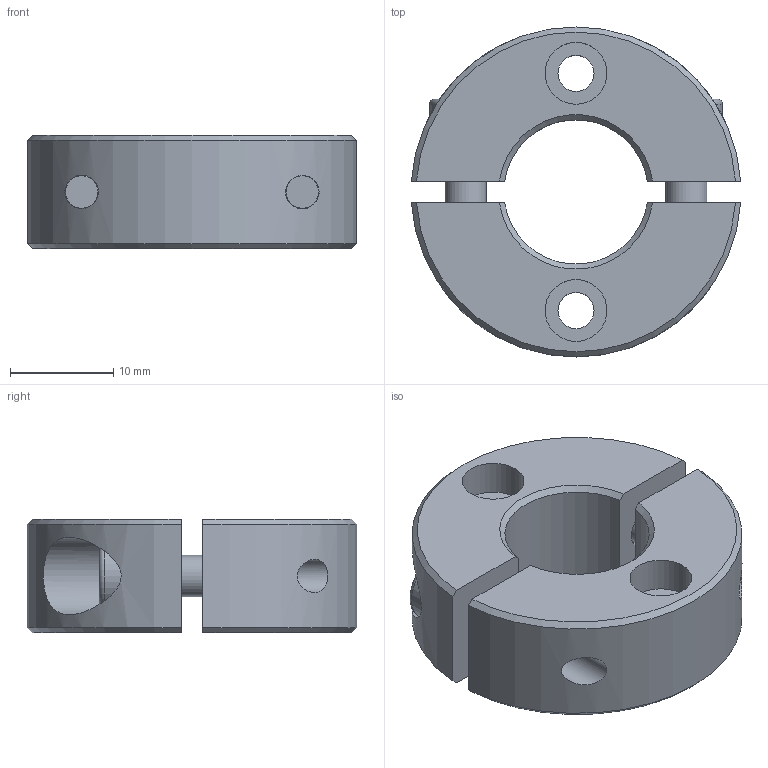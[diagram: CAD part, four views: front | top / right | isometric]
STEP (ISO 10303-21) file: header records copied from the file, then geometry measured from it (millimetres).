
FILE_DESCRIPTION( ( 'STEP AP203' ), '1' );
FILE_NAME( 'C:/Temp/Ganter_Step_05_03_2020/data/3_2/gn7072_2/Split Stainless Steel-Set collar GN 7072.2-32-B14-NI-B.stp', '2020-03-13T05:40:56', ( 'License CC BY-ND 4.0' ), ( 'CADENAS' ), ' ', 'PARTsolutions', ' ' );
FILE_SCHEMA( ( 'CONFIG_CONTROL_DESIGN' ) );
Length unit declared in the file: millimetre
Products named in the file (1): _Split Stainless Steel-Set collar GN 7072.2-32-B14-NI-B
Bounding box: 31.93 x 32 x 11 mm (x, y, z)
Volume: 5967.9 mm3; surface area: 4118.4 mm2
Topology: 1 solids, 1 shells, 62 faces, 143 edges, 97 vertices
Faces by surface type: plane 32, cylinder 18, cone 10, torus 2
Full cylindrical faces by diameter (mm): 3.242 x2, 3.5 x2, 4 x2, 4.4 x2, 6 x2, 7 x2, 7.5 x2
Entity records: 1916 total; most frequent: CARTESIAN_POINT 567, DIRECTION 266, ORIENTED_EDGE 232, EDGE_CURVE 116, AXIS2_PLACEMENT_3D 107, EDGE_LOOP 100, VERTEX_POINT 88, FACE_OUTER_BOUND 78
